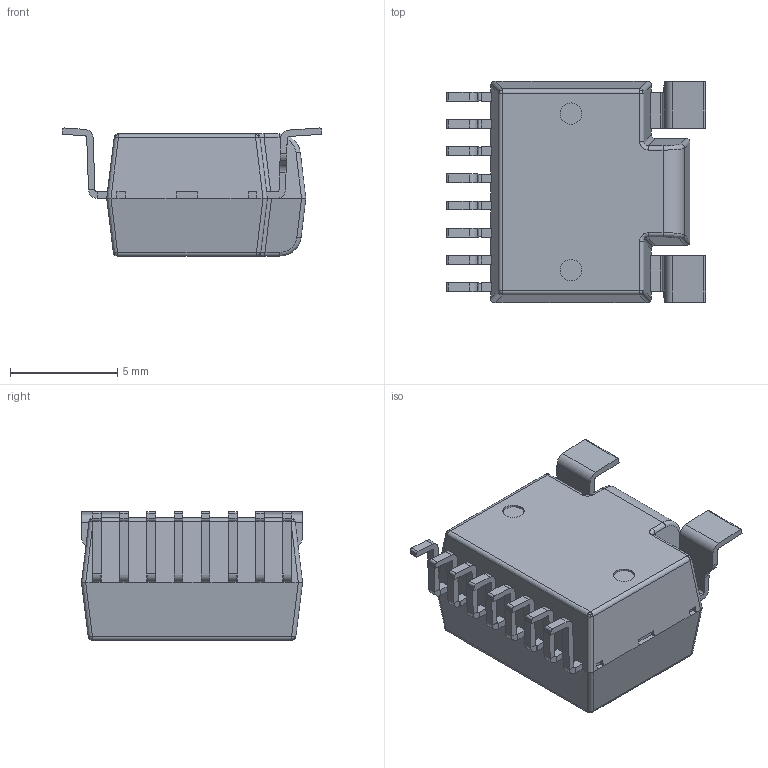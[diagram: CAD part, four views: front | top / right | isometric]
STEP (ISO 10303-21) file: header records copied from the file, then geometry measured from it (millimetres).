
FILE_DESCRIPTION(('Creo Elements/Direct Modeling STEP Export'),'2;1');
FILE_NAME('HMSR families CAD CUSTOMER.stp','2018-07-05T15:57:30',(''),(''),'PTC Creo Elements/Direct Modeling STEP processor for AP214 (Solid Model)','PTC Creo Elements/Direct Modeling 19.0E 27-Jun-2016 (C) Parametric Technology GmbH','');
FILE_SCHEMA(('AUTOMOTIVE_DESIGN { 1 0 10303 214 1 1 1 1 }'));
Products named in the file (2): CAD_CUSTOMER
Assembly tree (1 placements, depth 2):
  CAD_CUSTOMER
    CAD_CUSTOMER
Bounding box: 12.13 x 10.32 x 5.98 mm (x, y, z)
Volume: 330.1 mm3; surface area: 751.5 mm2
Topology: 1 solids, 2 shells, 657 faces, 1755 edges, 1130 vertices
Faces by surface type: plane 442, cylinder 121, bspline 66, torus 20, cone 8
Entity records: 96745 total; most frequent: CARTESIAN_POINT 79017, ORIENTED_EDGE 3510, DIRECTION 2941, EDGE_CURVE 1755, VECTOR 1249, LINE 1249, VERTEX_POINT 1130, AXIS2_PLACEMENT_3D 846
